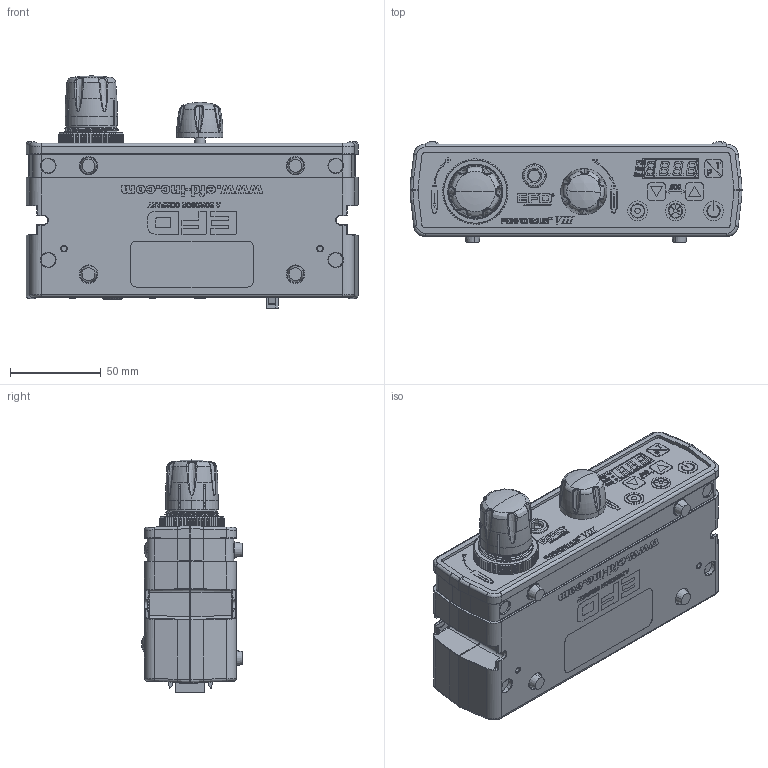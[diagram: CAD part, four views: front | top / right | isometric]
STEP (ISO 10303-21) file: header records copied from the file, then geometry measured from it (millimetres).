
FILE_DESCRIPTION (( 'STEP AP214' ), '1' );
FILE_NAME ('NORDSONEFD-7012337 PERFORMUS VIII.STEP', '2015-09-23T14:01:37', ( 'Windows User' ), ( '' ), 'SwSTEP 2.0', 'SolidWorks 2015', '' );
FILE_SCHEMA (( 'AUTOMOTIVE_DESIGN' ));
Length unit declared in the file: inch
Products named in the file (1): NORDSONEFD-7012337 PERFORMUS VIII
Bounding box: 183.4 x 55.7 x 128.23 mm (x, y, z)
Volume: 751616.4 mm3; surface area: 84521.3 mm2
Topology: 1 solids, 1 shells, 7252 faces, 19211 edges, 12455 vertices
Faces by surface type: plane 3997, bspline 1939, cylinder 791, cone 311, torus 170, sphere 44
Entity records: 329900 total; most frequent: CARTESIAN_POINT 144199, ORIENTED_EDGE 38382, DIRECTION 27882, EDGE_CURVE 19191, VERTEX_POINT 12455, LINE 12016, VECTOR 12016, AXIS2_PLACEMENT_3D 7933
